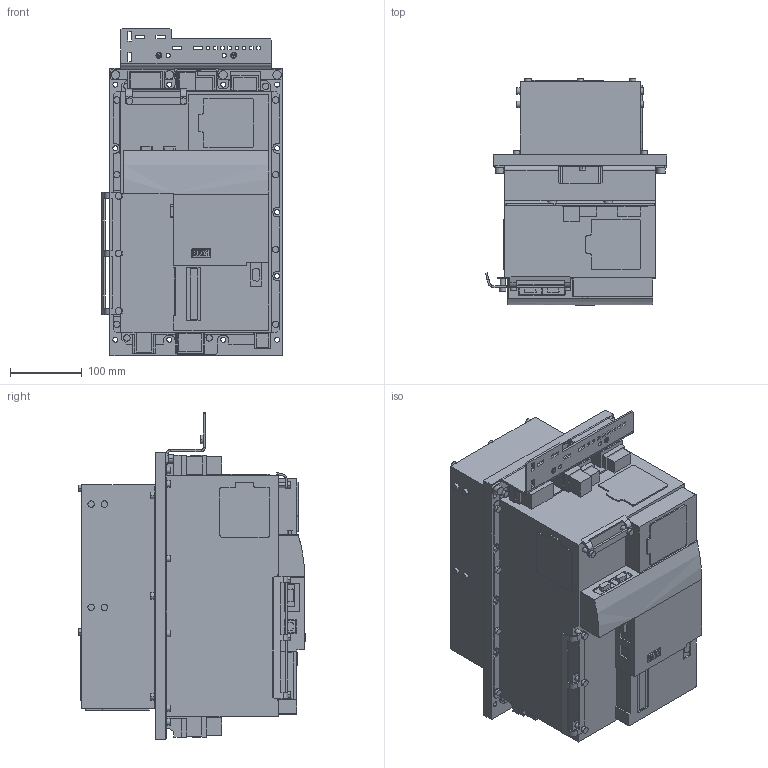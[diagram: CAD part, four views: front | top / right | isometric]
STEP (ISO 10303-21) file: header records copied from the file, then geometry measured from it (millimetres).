
FILE_DESCRIPTION (( 'STEP AP214' ), '1' );
FILE_NAME ('18_19P6 mit CAN Steuerung und Schirmwinkel.STEP', '2020-09-25T09:33:20', ( '' ), ( '' ), 'SwSTEP 2.0', 'SolidWorks 2019', '' );
FILE_SCHEMA (( 'AUTOMOTIVE_DESIGN' ));
Length unit declared in the file: millimetre
Products named in the file (14): 10061123_000_Kundenmodell; 10061106_000_Kundenmodell; 18_19P6 mit CAN Steuerung und Schirmwinkel; 10061067_000_Kundenmodell; 10061712_000; 10061131_000_Kundenmodell; 10061951_000; 10014308_000; 10061177_000; 10061174_000; 10061757_000; 10034156_000_Kundenmodell; 10060997_000_Kundenmodell; 10061699_000
Assembly tree (13 placements, depth 3):
  18_19P6 mit CAN Steuerung und Schirmwinkel
    10061067_000_Kundenmodell
      10061712_000
    10061123_000_Kundenmodell
      10061757_000
    10060997_000_Kundenmodell
      10061699_000
    10061106_000_Kundenmodell
      10061174_000
    10061131_000_Kundenmodell
      10014308_000
      10061177_000
    10034156_000_Kundenmodell
      10061951_000
Bounding box: 251.83 x 315.93 x 456 mm (x, y, z)
Volume: 19718779.2 mm3; surface area: 1109447.4 mm2
Topology: 13 solids, 16 shells, 1514 faces, 4121 edges, 2718 vertices
Faces by surface type: plane 991, cylinder 462, bspline 44, torus 9, cone 8
Entity records: 51030 total; most frequent: CARTESIAN_POINT 10727, ORIENTED_EDGE 8242, DIRECTION 7787, EDGE_CURVE 4121, VECTOR 2979, LINE 2979, VERTEX_POINT 2718, AXIS2_PLACEMENT_3D 2404
